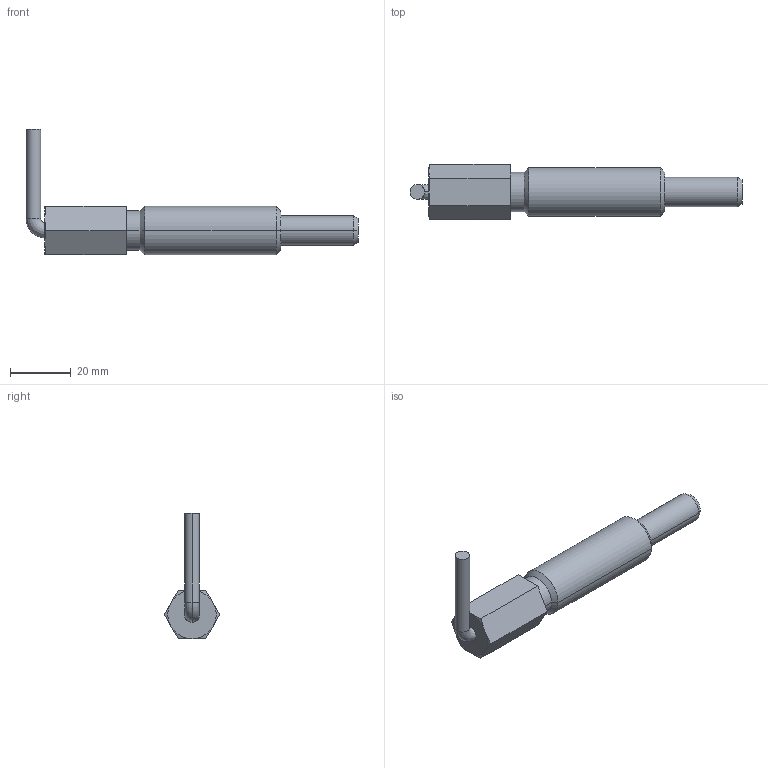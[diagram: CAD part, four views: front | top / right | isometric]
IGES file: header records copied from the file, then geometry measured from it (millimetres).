
Start section:  PTC IGES file: frn625-part.igs
Global section: file name: frn625-part.igs; native system: Pro/ENGINEER by Parametric Technology Corporation; preprocessor: 2002350; author: chant; organization: Unknown; date: 070614.113427; units: inch
Bounding box: 109.09 x 18.18 x 41.21 mm (x, y, z)
Surface area: 8890.2 mm2 (no closed solid volume)
Topology: 0 solids, 0 shells, 41 faces, 248 edges, 304 vertices
Faces by surface type: revolution 28, bspline 13
